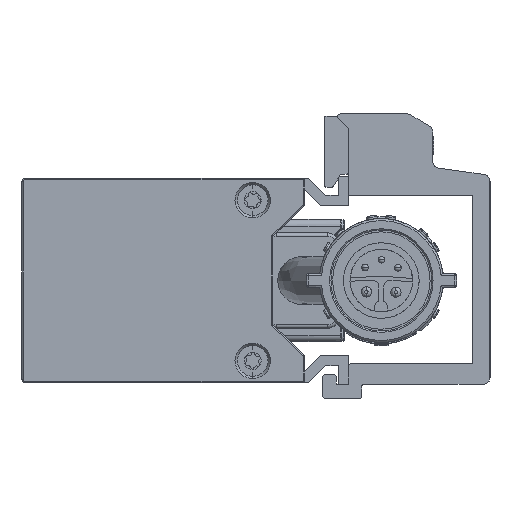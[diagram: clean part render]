
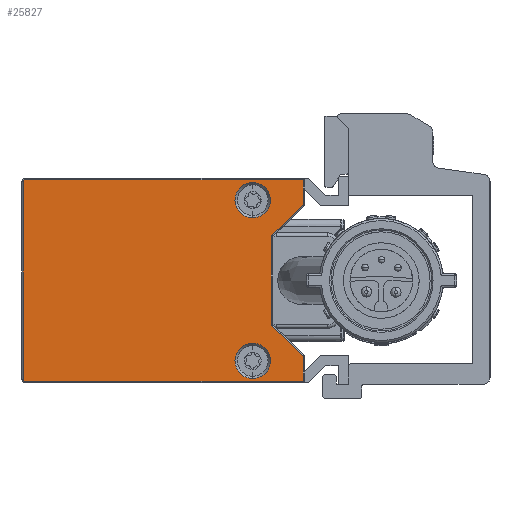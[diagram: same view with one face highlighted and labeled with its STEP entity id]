
A CAD part, left-side view. The second image highlights one B-rep face of the part: STEP entity #25827.
In plain terms, the highlighted planar face has unit normal (-1, 0, 0).
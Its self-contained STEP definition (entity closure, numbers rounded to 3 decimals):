
#457 = EDGE_CURVE ( 'NONE', #53805, #44439, #53669, .T. ) ;
#620 = EDGE_CURVE ( 'NONE', #13249, #39111, #54035, .T. ) ;
#985 = CIRCLE ( 'NONE', #55571, 2.6 ) ;
#1018 = CARTESIAN_POINT ( 'NONE',  ( -150., 14.134, -11.8 ) ) ;
#1608 = EDGE_CURVE ( 'NONE', #5281, #44166, #8691, .T. ) ;
#2039 = LINE ( 'NONE', #2345, #11835 ) ;
#2060 = DIRECTION ( 'NONE',  ( 0., 0.718, -0.696 ) ) ;
#2106 = ORIENTED_EDGE ( 'NONE', *, *, #52210, .F. ) ;
#2117 = VECTOR ( 'NONE', #57584, 1000. ) ;
#2177 = CIRCLE ( 'NONE', #14493, 0.3 ) ;
#2345 = CARTESIAN_POINT ( 'NONE',  ( -150., 47.5, -14.8 ) ) ;
#2708 = ORIENTED_EDGE ( 'NONE', *, *, #57002, .F. ) ;
#2742 = ORIENTED_EDGE ( 'NONE', *, *, #8102, .T. ) ;
#3399 = AXIS2_PLACEMENT_3D ( 'NONE', #11924, #48822, #16707 ) ;
#3599 = ORIENTED_EDGE ( 'NONE', *, *, #37984, .T. ) ;
#4939 = FACE_OUTER_BOUND ( 'NONE', #36551, .T. ) ;
#5281 = VERTEX_POINT ( 'NONE', #28845 ) ;
#5616 = EDGE_CURVE ( 'NONE', #28111, #33220, #44653, .T. ) ;
#6109 = LINE ( 'NONE', #43321, #23292 ) ;
#6507 = CARTESIAN_POINT ( 'NONE',  ( -150., 6.7, 14.8 ) ) ;
#6706 = DIRECTION ( 'NONE',  ( 0., -0.718, -0.696 ) ) ;
#7010 = LINE ( 'NONE', #56499, #48982 ) ;
#8102 = EDGE_CURVE ( 'NONE', #39111, #53131, #54822, .T. ) ;
#8691 = LINE ( 'NONE', #25778, #2117 ) ;
#9126 = DIRECTION ( 'NONE',  ( 0., 0., 1. ) ) ;
#9240 = DIRECTION ( 'NONE',  ( 0., 1., 0. ) ) ;
#10045 = DIRECTION ( 'NONE',  ( 0., 0., 1. ) ) ;
#10150 = CIRCLE ( 'NONE', #24505, 0.3 ) ;
#10291 = DIRECTION ( 'NONE',  ( -1., 0., 0. ) ) ;
#11835 = VECTOR ( 'NONE', #20594, 1000. ) ;
#11924 = CARTESIAN_POINT ( 'NONE',  ( -150., 14.134, 11.8 ) ) ;
#12012 = DIRECTION ( 'NONE',  ( 0., 1., 0. ) ) ;
#12131 = AXIS2_PLACEMENT_3D ( 'NONE', #34793, #21559, #12012 ) ;
#12372 = CARTESIAN_POINT ( 'NONE',  ( -150., 11.399, -6.415 ) ) ;
#12678 = DIRECTION ( 'NONE',  ( 0., 0., 1. ) ) ;
#13052 = EDGE_LOOP ( 'NONE', ( #43634, #2106 ) ) ;
#13091 = ORIENTED_EDGE ( 'NONE', *, *, #5616, .F. ) ;
#13249 = VERTEX_POINT ( 'NONE', #28099 ) ;
#13642 = DIRECTION ( 'NONE',  ( 1., 0., 0. ) ) ;
#13911 = DIRECTION ( 'NONE',  ( 0., 0., -1. ) ) ;
#14493 = AXIS2_PLACEMENT_3D ( 'NONE', #50240, #13642, #27720 ) ;
#15154 = PLANE ( 'NONE',  #54481 ) ;
#15717 = DIRECTION ( 'NONE',  ( 0., 0., 1. ) ) ;
#16080 = EDGE_CURVE ( 'NONE', #41412, #5281, #2039, .T. ) ;
#16707 = DIRECTION ( 'NONE',  ( 0., 0., 1. ) ) ;
#16968 = DIRECTION ( 'NONE',  ( 0., 0., -1. ) ) ;
#18987 = EDGE_CURVE ( 'NONE', #41412, #36378, #10150, .T. ) ;
#19017 = EDGE_CURVE ( 'NONE', #33220, #28111, #33141, .T. ) ;
#19127 = DIRECTION ( 'NONE',  ( 0., 0., -1. ) ) ;
#19861 = DIRECTION ( 'NONE',  ( 0., 0.696, 0.718 ) ) ;
#20594 = DIRECTION ( 'NONE',  ( 0., -1., 0. ) ) ;
#21559 = DIRECTION ( 'NONE',  ( -1., 0., 0. ) ) ;
#22169 = ORIENTED_EDGE ( 'NONE', *, *, #1608, .T. ) ;
#22668 = CARTESIAN_POINT ( 'NONE',  ( -150., 47.5, -14.8 ) ) ;
#22933 = CARTESIAN_POINT ( 'NONE',  ( -150., 14.134, -9.2 ) ) ;
#23135 = CARTESIAN_POINT ( 'NONE',  ( -150., 10.999, 6.415 ) ) ;
#23188 = FACE_BOUND ( 'NONE', #13052, .T. ) ;
#23292 = VECTOR ( 'NONE', #6706, 1000. ) ;
#23991 = ORIENTED_EDGE ( 'NONE', *, *, #18987, .F. ) ;
#24505 = AXIS2_PLACEMENT_3D ( 'NONE', #42854, #38354, #19127 ) ;
#25108 = LINE ( 'NONE', #56648, #57568 ) ;
#25778 = CARTESIAN_POINT ( 'NONE',  ( -150., 6.7, -14.8 ) ) ;
#25827 = ADVANCED_FACE ( 'NONE', ( #23188, #37953, #4939 ), #15154, .T. ) ;
#25965 = VERTEX_POINT ( 'NONE', #38840 ) ;
#26428 = CARTESIAN_POINT ( 'NONE',  ( -150., 47.8, 14.5 ) ) ;
#27720 = DIRECTION ( 'NONE',  ( 0., 1., 0. ) ) ;
#27784 = AXIS2_PLACEMENT_3D ( 'NONE', #23135, #48104, #19861 ) ;
#28099 = CARTESIAN_POINT ( 'NONE',  ( -150., 6.7, 11.135 ) ) ;
#28111 = VERTEX_POINT ( 'NONE', #57363 ) ;
#28476 = ORIENTED_EDGE ( 'NONE', *, *, #29373, .F. ) ;
#28845 = CARTESIAN_POINT ( 'NONE',  ( -150., 6.7, -14.8 ) ) ;
#29373 = EDGE_CURVE ( 'NONE', #13249, #53805, #25108, .T. ) ;
#30220 = CIRCLE ( 'NONE', #12131, 0.4 ) ;
#31137 = ORIENTED_EDGE ( 'NONE', *, *, #19017, .F. ) ;
#32442 = VERTEX_POINT ( 'NONE', #22933 ) ;
#33104 = CARTESIAN_POINT ( 'NONE',  ( -150., 14.134, -11.8 ) ) ;
#33141 = CIRCLE ( 'NONE', #3399, 2.6 ) ;
#33220 = VERTEX_POINT ( 'NONE', #38665 ) ;
#34532 = CARTESIAN_POINT ( 'NONE',  ( -150., 47.8, -14.5 ) ) ;
#34697 = CIRCLE ( 'NONE', #52892, 2.6 ) ;
#34793 = CARTESIAN_POINT ( 'NONE',  ( -150., 10.999, -6.415 ) ) ;
#34882 = CARTESIAN_POINT ( 'NONE',  ( -150., 47.5, 14.8 ) ) ;
#35952 = CARTESIAN_POINT ( 'NONE',  ( -150., 6.7, 14.8 ) ) ;
#36330 = VECTOR ( 'NONE', #12678, 1000. ) ;
#36378 = VERTEX_POINT ( 'NONE', #34532 ) ;
#36551 = EDGE_LOOP ( 'NONE', ( #48754, #2742, #49023, #37015, #23991, #56486, #22169, #2708, #38242, #3599, #39294, #28476 ) ) ;
#37015 = ORIENTED_EDGE ( 'NONE', *, *, #39181, .T. ) ;
#37953 = FACE_BOUND ( 'NONE', #50075, .T. ) ;
#37984 = EDGE_CURVE ( 'NONE', #44509, #44439, #7010, .T. ) ;
#38242 = ORIENTED_EDGE ( 'NONE', *, *, #43223, .F. ) ;
#38354 = DIRECTION ( 'NONE',  ( 1., 0., 0. ) ) ;
#38665 = CARTESIAN_POINT ( 'NONE',  ( -150., 14.134, 14.4 ) ) ;
#38840 = CARTESIAN_POINT ( 'NONE',  ( -150., 14.134, -14.4 ) ) ;
#39111 = VERTEX_POINT ( 'NONE', #6507 ) ;
#39181 = EDGE_CURVE ( 'NONE', #44354, #36378, #48498, .T. ) ;
#39215 = EDGE_CURVE ( 'NONE', #44354, #53131, #2177, .T. ) ;
#39294 = ORIENTED_EDGE ( 'NONE', *, *, #457, .F. ) ;
#39452 = VERTEX_POINT ( 'NONE', #54081 ) ;
#39791 = DIRECTION ( 'NONE',  ( 0., 0., -1. ) ) ;
#40244 = CARTESIAN_POINT ( 'NONE',  ( -150., 6.7, 11.135 ) ) ;
#41412 = VERTEX_POINT ( 'NONE', #22668 ) ;
#42854 = CARTESIAN_POINT ( 'NONE',  ( -150., 47.5, -14.5 ) ) ;
#43223 = EDGE_CURVE ( 'NONE', #44509, #39452, #30220, .T. ) ;
#43321 = CARTESIAN_POINT ( 'NONE',  ( -150., 11.278, -6.703 ) ) ;
#43634 = ORIENTED_EDGE ( 'NONE', *, *, #47725, .F. ) ;
#44166 = VERTEX_POINT ( 'NONE', #47209 ) ;
#44354 = VERTEX_POINT ( 'NONE', #26428 ) ;
#44439 = VERTEX_POINT ( 'NONE', #49252 ) ;
#44509 = VERTEX_POINT ( 'NONE', #12372 ) ;
#44653 = CIRCLE ( 'NONE', #53212, 2.6 ) ;
#45487 = DIRECTION ( 'NONE',  ( -1., 0., 0. ) ) ;
#46112 = VECTOR ( 'NONE', #39791, 1000. ) ;
#46650 = CARTESIAN_POINT ( 'NONE',  ( -150., 11.199, 0. ) ) ;
#47209 = CARTESIAN_POINT ( 'NONE',  ( -150., 6.7, -11.135 ) ) ;
#47725 = EDGE_CURVE ( 'NONE', #32442, #25965, #34697, .T. ) ;
#48104 = DIRECTION ( 'NONE',  ( -1., 0., 0. ) ) ;
#48498 = LINE ( 'NONE', #53558, #46112 ) ;
#48754 = ORIENTED_EDGE ( 'NONE', *, *, #620, .T. ) ;
#48822 = DIRECTION ( 'NONE',  ( -1., 0., 0. ) ) ;
#48982 = VECTOR ( 'NONE', #15717, 1000. ) ;
#49023 = ORIENTED_EDGE ( 'NONE', *, *, #39215, .F. ) ;
#49231 = VECTOR ( 'NONE', #9240, 1000. ) ;
#49252 = CARTESIAN_POINT ( 'NONE',  ( -150., 11.399, 6.415 ) ) ;
#50075 = EDGE_LOOP ( 'NONE', ( #31137, #13091 ) ) ;
#50240 = CARTESIAN_POINT ( 'NONE',  ( -150., 47.5, 14.5 ) ) ;
#52210 = EDGE_CURVE ( 'NONE', #25965, #32442, #985, .T. ) ;
#52892 = AXIS2_PLACEMENT_3D ( 'NONE', #33104, #10291, #9126 ) ;
#53131 = VERTEX_POINT ( 'NONE', #34882 ) ;
#53212 = AXIS2_PLACEMENT_3D ( 'NONE', #54443, #45487, #16968 ) ;
#53558 = CARTESIAN_POINT ( 'NONE',  ( -150., 47.8, 14.5 ) ) ;
#53669 = CIRCLE ( 'NONE', #27784, 0.4 ) ;
#53805 = VERTEX_POINT ( 'NONE', #57496 ) ;
#54035 = LINE ( 'NONE', #40244, #36330 ) ;
#54081 = CARTESIAN_POINT ( 'NONE',  ( -150., 11.278, -6.703 ) ) ;
#54443 = CARTESIAN_POINT ( 'NONE',  ( -150., 14.134, 11.8 ) ) ;
#54481 = AXIS2_PLACEMENT_3D ( 'NONE', #46650, #55334, #10045 ) ;
#54822 = LINE ( 'NONE', #35952, #49231 ) ;
#55334 = DIRECTION ( 'NONE',  ( -1., 0., 0. ) ) ;
#55571 = AXIS2_PLACEMENT_3D ( 'NONE', #1018, #55601, #13911 ) ;
#55601 = DIRECTION ( 'NONE',  ( -1., 0., 0. ) ) ;
#56486 = ORIENTED_EDGE ( 'NONE', *, *, #16080, .T. ) ;
#56499 = CARTESIAN_POINT ( 'NONE',  ( -150., 11.399, -6.415 ) ) ;
#56648 = CARTESIAN_POINT ( 'NONE',  ( -150., 6.7, 11.135 ) ) ;
#57002 = EDGE_CURVE ( 'NONE', #39452, #44166, #6109, .T. ) ;
#57363 = CARTESIAN_POINT ( 'NONE',  ( -150., 14.134, 9.2 ) ) ;
#57496 = CARTESIAN_POINT ( 'NONE',  ( -150., 11.278, 6.703 ) ) ;
#57568 = VECTOR ( 'NONE', #2060, 1000. ) ;
#57584 = DIRECTION ( 'NONE',  ( 0., 0., 1. ) ) ;
